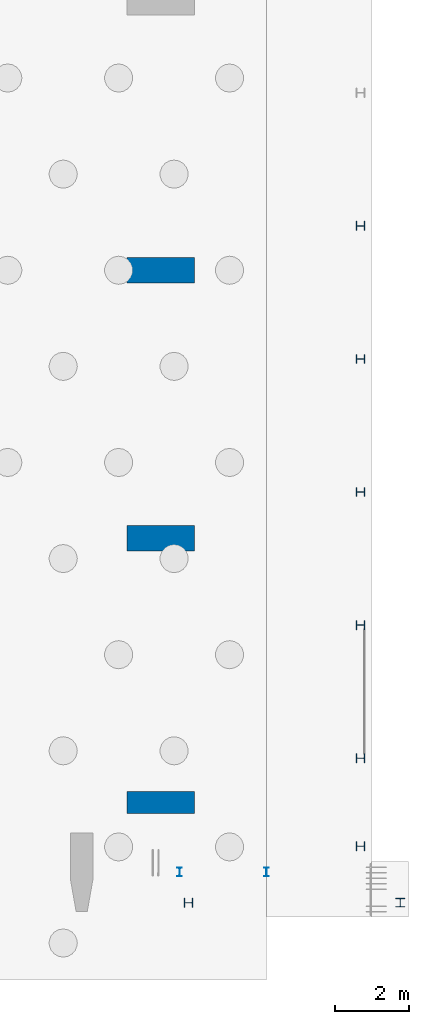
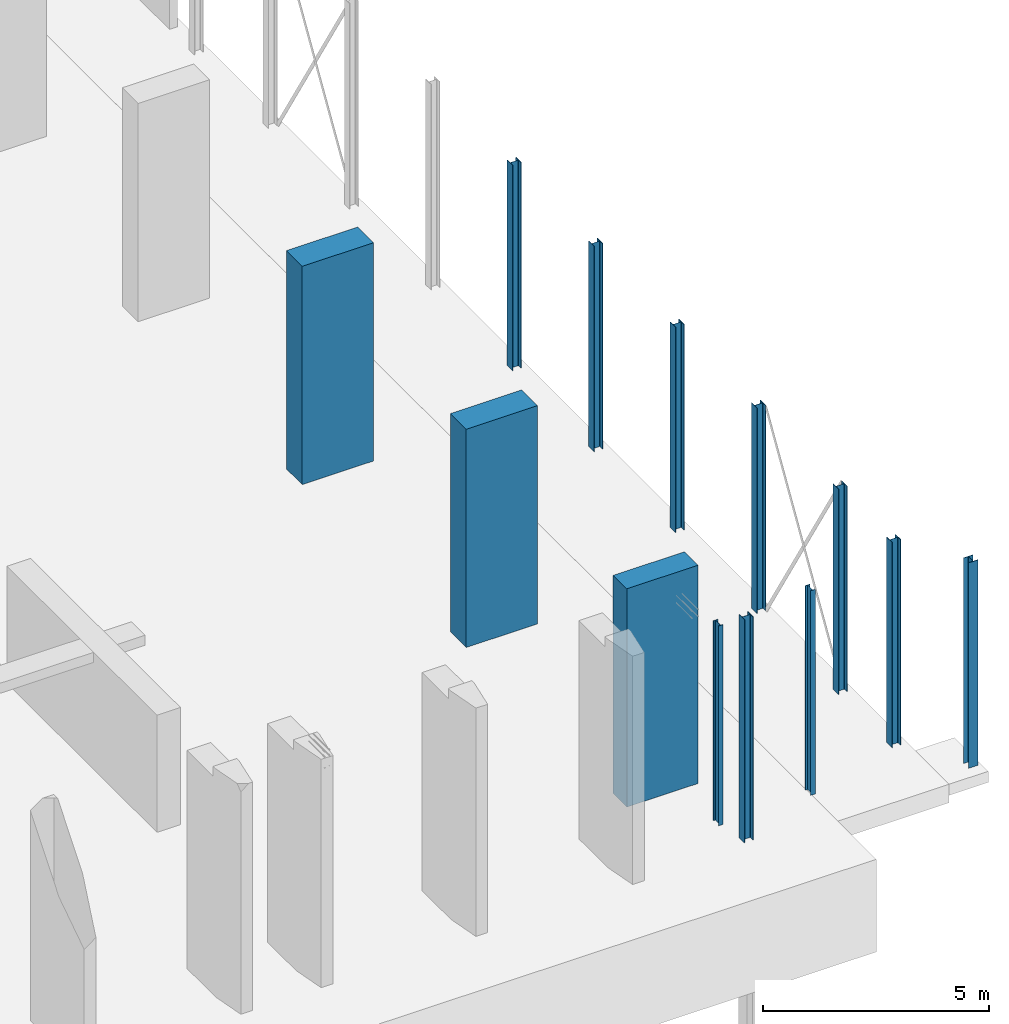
# One storey, part 12 of 26: 13 columns.
"""IFC2X3 building model written with IfcOpenShell, lengths in millimetres."""

import ifcopenshell
import ifcopenshell.guid

model = None  # the IFC model being written
_history = None  # IfcOwnerHistory: only IFC2X3 demands one
_inside = {}  # id of a spatial element -> (the spatial element, [elements in it])
_under = {}  # id of a project, library or spatial element -> (it, [spatial elements below it])
_declared = {}  # id of a project -> (the project, [libraries it declares])
_typed = {}  # id of a type object -> (the type object, [elements of that type])
_made_of = {}  # id of a material, layer set ... -> (it, [elements and type objects made of it])


def new_model(schema):
    """Start an empty IFC model of exactly this schema.

    Asked for "IFC4X3", IfcOpenShell would pick the latest addendum, in which some entities
    have other attributes; the version numbers below select the first issue.
    IFC2X3 requires an IfcOwnerHistory on every rooted entity: one is made here for all.
    """
    global model, _history
    if schema == "IFC4X3":
        model = ifcopenshell.file(schema_version=(4, 3, 0, 0))
    else:
        model = ifcopenshell.file(schema=schema)
    _inside.clear()
    _under.clear()
    _declared.clear()
    _typed.clear()
    _made_of.clear()
    _history = None
    if model.schema == "IFC2X3":
        org = make("IfcOrganization", Name="unknown")
        user = make(
            "IfcPersonAndOrganization",
            ThePerson=make("IfcPerson", FamilyName="unknown"),
            TheOrganization=org,
        )
        app = make(
            "IfcApplication",
            ApplicationDeveloper=org,
            Version="unknown",
            ApplicationFullName="unknown",
            ApplicationIdentifier="unknown",
        )
        _history = make(
            "IfcOwnerHistory",
            OwningUser=user,
            OwningApplication=app,
            ChangeAction="ADDED",
            CreationDate=0,
        )
    return model


def make(cls, **values):
    """One entity of the class cls with the attributes given. An attribute that is None is left unset."""
    return model.create_entity(
        cls, **{name: value for name, value in values.items() if value is not None}
    )


def entity(cls, *values):
    """Any entity or typed value of the class cls, its attributes in the order of the schema. None: left unset."""
    e = model.create_entity(cls)
    for i, value in enumerate(values):
        if value is not None:
            e[i] = value
    return e


def rooted(cls, **values):
    """An entity with a GlobalId (a new one), such as an element, a storey or a relation."""
    return make(cls, GlobalId=ifcopenshell.guid.new(), OwnerHistory=_history, **values)


def si_unit(unit_type, name, prefix=None):
    """IfcSIUnit, for example si_unit("LENGTHUNIT", "METRE", prefix="MILLI")."""
    return make("IfcSIUnit", UnitType=unit_type, Prefix=prefix, Name=name)


def converted_unit(unit_type, name, factor, base, dimensions=None, offset=None):
    """IfcConversionBasedUnit, such as the inch: factor (a typed value) times the base unit."""
    return make(
        "IfcConversionBasedUnit"
        if offset is None
        else "IfcConversionBasedUnitWithOffset",
        ConversionOffset=offset,
        Dimensions=None
        if dimensions is None
        else entity("IfcDimensionalExponents", *dimensions),
        UnitType=unit_type,
        Name=name,
        ConversionFactor=make(
            "IfcMeasureWithUnit", ValueComponent=factor, UnitComponent=base
        ),
    )


def derived_unit(unit_type, elements):
    """IfcDerivedUnit: a product of units, each with its exponent."""
    return make(
        "IfcDerivedUnit",
        Elements=[
            make("IfcDerivedUnitElement", Unit=unit, Exponent=power)
            for unit, power in elements
        ],
        UnitType=unit_type,
    )


def assignment(units):
    """IfcUnitAssignment: the units of a project."""
    return None if units is None else make("IfcUnitAssignment", Units=units)


def point(xyz):
    """IfcCartesianPoint."""
    return None if xyz is None else make("IfcCartesianPoint", Coordinates=xyz)


def direction(xyz):
    """IfcDirection."""
    return None if xyz is None else make("IfcDirection", DirectionRatios=xyz)


def frame(location, z_axis=None, x_axis=None):
    """IfcAxis2Placement3D, a coordinate frame: its origin and axes. An axis left out is left unset."""
    return make(
        "IfcAxis2Placement3D",
        Location=point(location),
        Axis=direction(z_axis),
        RefDirection=direction(x_axis),
    )


def frame_2d(location, x_axis=None):
    """IfcAxis2Placement2D, a coordinate frame in the plane: its origin and x axis."""
    return make(
        "IfcAxis2Placement2D", Location=point(location), RefDirection=direction(x_axis)
    )


def origin():
    """The frame at (0, 0, 0) with its axes left unset."""
    return frame((0.0, 0.0, 0.0))


def origin_2d_with_axis():
    """The frame at (0, 0) in the plane with the x axis (1, 0) written out."""
    return frame_2d((0.0, 0.0), x_axis=(1.0, 0.0))


def place(relative_to, where):
    """IfcLocalPlacement: puts the frame where relative to a parent placement (None: the world)."""
    return make(
        "IfcLocalPlacement", PlacementRelTo=relative_to, RelativePlacement=where
    )


def context(
    kind, dimensions, precision=None, world=None, true_north=None, identifier=None
):
    """IfcGeometricRepresentationContext, for example the 3D "Model" context."""
    return make(
        "IfcGeometricRepresentationContext",
        ContextIdentifier=identifier,
        ContextType=kind,
        CoordinateSpaceDimension=dimensions,
        Precision=precision,
        WorldCoordinateSystem=world,
        TrueNorth=true_north,
    )


def subcontext(parent, identifier, kind, view, scale=None):
    """IfcGeometricRepresentationSubContext, for example "Body" below "Model"."""
    return make(
        "IfcGeometricRepresentationSubContext",
        ContextIdentifier=identifier,
        ContextType=kind,
        ParentContext=parent,
        TargetScale=scale,
        TargetView=view,
    )


def project(units=None, contexts=None):
    """IfcProject with its units and contexts."""
    return rooted(
        "IfcProject",
        Name="project",
        RepresentationContexts=contexts,
        UnitsInContext=assignment(units),
    )


def spatial(cls, under=None, at=None, **own):
    """A site, building, storey or space (cls), placed at a placement, below another one or the project."""
    s = rooted(cls, ObjectPlacement=at, **own)
    if under is not None:
        _under.setdefault(under.id(), (under, []))[1].append(s)
    return s


def polyline(points):
    """IfcPolyline through the points."""
    return make("IfcPolyline", Points=[point(p) for p in points])


def circle_curve(where, radius):
    """IfcCircle in the frame where."""
    return make("IfcCircle", Position=where, Radius=radius)


def parameter(value):
    """IfcParameterValue: where a trimmed curve begins or ends, as a parameter of its basis curve."""
    return model.create_entity("IfcParameterValue", value)


def trimmed(basis, trim1, trim2, sense, master):
    """IfcTrimmedCurve: the piece of a basis curve between two trims."""
    return make(
        "IfcTrimmedCurve",
        BasisCurve=basis,
        Trim1=trim1,
        Trim2=trim2,
        SenseAgreement=sense,
        MasterRepresentation=master,
    )


def segment(curve, same_sense, transition):
    """IfcCompositeCurveSegment."""
    return make(
        "IfcCompositeCurveSegment",
        Transition=transition,
        SameSense=same_sense,
        ParentCurve=curve,
    )


def composite_curve(segments, self_intersect=None):
    """IfcCompositeCurve: segments joined end to end."""
    return make("IfcCompositeCurve", Segments=segments, SelfIntersect=self_intersect)


def profile(cls, at=None, kind="AREA", **sizes):
    """A parametric profile (cls). Its sizes go by their IFC names, for example OverallWidth=200.0."""
    return make(cls, ProfileType=kind, Position=at, **sizes)


def rectangle(**sizes):
    """IfcRectangleProfileDef."""
    return profile("IfcRectangleProfileDef", **sizes)


def outline(outer, holes=None, kind="AREA"):
    """IfcArbitraryClosedProfileDef: a profile drawn as a closed curve; with holes, ...WithVoids."""
    if holes is None:
        return make("IfcArbitraryClosedProfileDef", ProfileType=kind, OuterCurve=outer)
    return make(
        "IfcArbitraryProfileDefWithVoids",
        ProfileType=kind,
        OuterCurve=outer,
        InnerCurves=holes,
    )


def extrude(swept, where, along, depth):
    """IfcExtrudedAreaSolid: the profile swept, set in the frame where, extruded along a direction by depth."""
    return make(
        "IfcExtrudedAreaSolid",
        SweptArea=swept,
        Position=where,
        ExtrudedDirection=direction(along),
        Depth=depth,
    )


def shape(context_of_items, identifier, shape_type, items):
    """IfcShapeRepresentation: the items that make up one representation, for example the "Body"."""
    return make(
        "IfcShapeRepresentation",
        ContextOfItems=context_of_items,
        RepresentationIdentifier=identifier,
        RepresentationType=shape_type,
        Items=items,
    )


def source(mapping_origin, context_of_items, identifier, shape_type, items):
    """IfcRepresentationMap: a shape defined once, which mapped items show again and again."""
    return make(
        "IfcRepresentationMap",
        MappingOrigin=mapping_origin,
        MappedRepresentation=shape(context_of_items, identifier, shape_type, items),
    )


def transform(
    local_origin,
    x_axis=None,
    y_axis=None,
    z_axis=None,
    scale=None,
    scale2=None,
    scale3=None,
    uniform=True,
):
    """IfcCartesianTransformationOperator3D, or its non-uniform kind. x_axis, y_axis, z_axis: its Axis1, 2, 3."""
    if uniform:
        return make(
            "IfcCartesianTransformationOperator3D",
            Axis1=direction(x_axis),
            Axis2=direction(y_axis),
            LocalOrigin=point(local_origin),
            Scale=scale,
            Axis3=direction(z_axis),
        )
    return make(
        "IfcCartesianTransformationOperator3DnonUniform",
        Axis1=direction(x_axis),
        Axis2=direction(y_axis),
        LocalOrigin=point(local_origin),
        Scale=scale,
        Axis3=direction(z_axis),
        Scale2=scale2,
        Scale3=scale3,
    )


def mapped(mapping_source, mapping_target):
    """IfcMappedItem: shows the shape of a source again, moved by a transform."""
    return make(
        "IfcMappedItem", MappingSource=mapping_source, MappingTarget=mapping_target
    )


def material(Name=None, Category=None):
    """IfcMaterial."""
    return make("IfcMaterial", Name=Name, Category=Category)


def made_of(thing, what):
    """Note that an element or type object is made of a material, layer set ...; save() writes the relation."""
    if what is not None:
        _made_of.setdefault(what.id(), (what, []))[1].append(thing)
    return thing


def type_object(cls, material=None, **own):
    """A type object (cls), such as IfcWallType, which elements share."""
    return made_of(rooted(cls, **own), material)


def type_shapes(of_type, sources):
    """Give a type object the sources (RepresentationMaps) that its elements show as mapped items."""
    of_type.RepresentationMaps = sources


def element(
    cls,
    number,
    at=None,
    inside=None,
    cuts=None,
    type_object=None,
    material=None,
    context=None,
    identifier="Body",
    shape_type=None,
    held_by="IfcProductDefinitionShape",
    body=None,
    shapes=None,
    **own,
):
    """One element of the class cls, such as IfcWall. Its Tag is "e" and its number.

    at: its placement. inside: the storey or other place that contains it. cuts: it is an
    opening in that element (IfcRelVoidsElement). A single representation is given by context,
    identifier, shape_type and body (its items); several are given by shapes. held_by: the class
    of the entity that holds the representations. save() writes the other relations.
    """
    e = rooted(cls, Tag="e%d" % number, ObjectPlacement=at, **own)
    if body is not None:
        shapes = [shape(context, identifier, shape_type, body)]
    if shapes is not None:
        e.Representation = make(held_by, Representations=shapes)
    if inside is not None:
        _inside.setdefault(inside.id(), (inside, []))[1].append(e)
    if cuts is not None:
        rooted(
            "IfcRelVoidsElement", RelatingBuildingElement=cuts, RelatedOpeningElement=e
        )
    if type_object is not None:
        _typed.setdefault(type_object.id(), (type_object, []))[1].append(e)
    return made_of(e, material)


def aggregate(whole, parts):
    """IfcRelAggregates: a whole, such as a stair, and the parts it consists of."""
    return rooted("IfcRelAggregates", RelatingObject=whole, RelatedObjects=parts)


def save(model, path):
    """Write the relations noted so far, then the file.

    IfcRelAggregates (storeys below a building ...), IfcRelContainedInSpatialStructure (elements
    in a storey), IfcRelDefinesByType, IfcRelAssociatesMaterial and IfcRelDeclares: one each for
    every whole, place, type object, material and project.
    """
    for whole, parts in _under.values():
        aggregate(whole, parts)
    for where, things in _inside.values():
        rooted(
            "IfcRelContainedInSpatialStructure",
            RelatedElements=things,
            RelatingStructure=where,
        )
    for kind, things in _typed.values():
        rooted("IfcRelDefinesByType", RelatedObjects=things, RelatingType=kind)
    for what, things in _made_of.values():
        rooted("IfcRelAssociatesMaterial", RelatedObjects=things, RelatingMaterial=what)
    for by, libraries in _declared.values():
        rooted("IfcRelDeclares", RelatingContext=by, RelatedDefinitions=libraries)
    model.write(path)


model = new_model("IFC2X3")

# Units and contexts
model_context = context("Model", 3, precision=0.01, world=origin(), true_north=direction((6.12303176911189e-17, 1.0)))
body_context = subcontext(model_context, "Body", "Model", "MODEL_VIEW")
ifc_project = project(units=[si_unit("LENGTHUNIT", "METRE", prefix="MILLI"), si_unit("AREAUNIT", "SQUARE_METRE"), si_unit("VOLUMEUNIT", "CUBIC_METRE"), converted_unit("PLANEANGLEUNIT", "DEGREE", entity("IfcRatioMeasure", 0.0174532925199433), si_unit("PLANEANGLEUNIT", "RADIAN"), dimensions=[0, 0, 0, 0, 0, 0, 0]), si_unit("MASSUNIT", "GRAM", prefix="KILO"), derived_unit("MASSDENSITYUNIT", [(si_unit("MASSUNIT", "GRAM", prefix="KILO"), 1), (si_unit("LENGTHUNIT", "METRE"), -3)]), si_unit("TIMEUNIT", "SECOND"), si_unit("FREQUENCYUNIT", "HERTZ"), si_unit("THERMODYNAMICTEMPERATUREUNIT", "DEGREE_CELSIUS"), derived_unit("THERMALTRANSMITTANCEUNIT", [(si_unit("MASSUNIT", "GRAM", prefix="KILO"), 1), (si_unit("THERMODYNAMICTEMPERATUREUNIT", "KELVIN"), -1), (si_unit("TIMEUNIT", "SECOND"), -3)]), derived_unit("VOLUMETRICFLOWRATEUNIT", [(si_unit("LENGTHUNIT", "METRE"), 3), (si_unit("TIMEUNIT", "SECOND"), -1)]), si_unit("ELECTRICCURRENTUNIT", "AMPERE"), si_unit("ELECTRICVOLTAGEUNIT", "VOLT"), si_unit("POWERUNIT", "WATT"), si_unit("FORCEUNIT", "NEWTON", prefix="KILO"), si_unit("ILLUMINANCEUNIT", "LUX"), si_unit("LUMINOUSFLUXUNIT", "LUMEN"), si_unit("LUMINOUSINTENSITYUNIT", "CANDELA"), derived_unit("USERDEFINED", [(si_unit("MASSUNIT", "GRAM", prefix="KILO"), -1), (si_unit("LENGTHUNIT", "METRE"), -2), (si_unit("TIMEUNIT", "SECOND"), 3), (si_unit("LUMINOUSFLUXUNIT", "LUMEN"), 1)]), derived_unit("LINEARVELOCITYUNIT", [(si_unit("LENGTHUNIT", "METRE"), 1), (si_unit("TIMEUNIT", "SECOND"), -1)]), si_unit("PRESSUREUNIT", "PASCAL"), derived_unit("USERDEFINED", [(si_unit("LENGTHUNIT", "METRE"), -2), (si_unit("MASSUNIT", "GRAM", prefix="KILO"), 1), (si_unit("TIMEUNIT", "SECOND"), -2)])], contexts=[model_context])

# Site, building, storey
site_placement = place(None, origin())
site = spatial("IfcSite", under=ifc_project, at=site_placement, Name="Default", CompositionType="ELEMENT")
building_placement = place(site_placement, origin())
building = spatial("IfcBuilding", under=site, at=building_placement, Name="niet gebruiken", CompositionType="ELEMENT")
storey_placement = place(building_placement, origin())
storey = spatial("IfcBuildingStorey", under=building, at=storey_placement, Name="00 begane grond", CompositionType="ELEMENT", Elevation=0.0)

# Columns
ifc_material_1 = material(Name="NLRS_f2_beton ihwg")
column_type_1 = type_object("IfcColumnType", Name="600x1820", PredefinedType="COLUMN", material=ifc_material_1)
shared_shape_1 = source(origin(), body_context, "Body", "SweptSolid", [
    extrude(rectangle(XDim=600.0, YDim=1820.0, at=origin_2d_with_axis()), frame((157890.0, 3100.0, -250.0), z_axis=(0.0, 0.0, 1.0), x_axis=(0.0, -1.0, 0.0)), (0.0, 0.0, 1.0), 5890.0),
])
type_shapes(column_type_1, [shared_shape_1])
column_1_placement = place(storey_placement, origin())
element("IfcColumn", 1, at=column_1_placement, inside=storey, type_object=column_type_1, material=ifc_material_1, Name="NLRS_28.11_SCO_TLB_beton kolom ihwg_gen:600x1820", ObjectType="600x1820", context=body_context, shape_type="MappedRepresentation", body=[
    mapped(shared_shape_1, transform((0.0, 0.0, 0.0), scale=1.0)),
])
column_type_2 = type_object("IfcColumnType", Name="700x1820", PredefinedType="COLUMN", material=ifc_material_1)
shared_shape_2 = source(origin(), body_context, "Body", "SweptSolid", [
    extrude(rectangle(XDim=699.999999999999, YDim=1820.0, at=origin_2d_with_axis()), frame((157890.0, 10250.0, -250.0), z_axis=(0.0, 0.0, 1.0), x_axis=(0.0, -1.0, 0.0)), (0.0, 0.0, 1.0), 5890.0),
])
type_shapes(column_type_2, [shared_shape_2])
column_2_placement = place(storey_placement, origin())
element("IfcColumn", 2, at=column_2_placement, inside=storey, type_object=column_type_2, material=ifc_material_1, Name="NLRS_28.11_SCO_TLB_beton kolom ihwg_gen:700x1820", ObjectType="700x1820", context=body_context, shape_type="MappedRepresentation", body=[
    mapped(shared_shape_2, transform((0.0, 0.0, 0.0), scale=1.0)),
])
column_type_3 = type_object("IfcColumnType", Name="700x1820", PredefinedType="COLUMN", material=ifc_material_1)
shared_shape_3 = source(origin(), body_context, "Body", "SweptSolid", [
    extrude(rectangle(XDim=699.999999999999, YDim=1820.0, at=frame_2d((2.1600499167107e-12, 0.0), x_axis=(1.0, 0.0))), frame((157890.0, 17500.0, -250.0), z_axis=(0.0, 0.0, 1.0), x_axis=(0.0, -1.0, 0.0)), (0.0, 0.0, 1.0), 5890.0),
])
type_shapes(column_type_3, [shared_shape_3])
column_3_placement = place(storey_placement, origin())
element("IfcColumn", 3, at=column_3_placement, inside=storey, type_object=column_type_3, material=ifc_material_1, Name="NLRS_28.11_SCO_TLB_beton kolom ihwg_gen:700x1820", ObjectType="700x1820", context=body_context, shape_type="MappedRepresentation", body=[
    mapped(shared_shape_3, transform((0.0, 0.0, 0.0), scale=1.0)),
])
ifc_material_2 = material(Name="NLRS_h2_staal")
column_type_4 = type_object("IfcColumnType", Name="kolom HEA 240", PredefinedType="COLUMN", material=ifc_material_2)
shared_shape_4 = source(origin(), body_context, "Body", "SweptSolid", [
    extrude(outline(composite_curve([segment(polyline([(103.0, -120.0), (115.0, -120.0)]), True, "CONTINUOUS"), segment(polyline([(115.0, -120.0), (115.0, 120.0)]), True, "CONTINUOUS"), segment(polyline([(115.0, 120.0), (103.0, 120.0)]), True, "CONTINUOUS"), segment(polyline([(103.0, 120.0), (103.0, 24.7499999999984)]), True, "CONTINUOUS"), segment(trimmed(circle_curve(frame_2d((82.0, 24.7499999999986), x_axis=(1.0, 0.0)), 21.0), [parameter(270.0)], [parameter(0.0)], True, "PARAMETER"), False, "CONTINUOUS"), segment(polyline([(82.0, 3.74999999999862), (-82.0, 3.74999999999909)]), True, "CONTINUOUS"), segment(trimmed(circle_curve(frame_2d((-82.0, 24.7499999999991), x_axis=(0.0, -1.0)), 21.0), [parameter(270.0)], [parameter(0.0)], True, "PARAMETER"), False, "CONTINUOUS"), segment(polyline([(-103.0, 24.7499999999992), (-103.0, 120.0)]), True, "CONTINUOUS"), segment(polyline([(-103.0, 120.0), (-115.0, 120.0)]), True, "CONTINUOUS"), segment(polyline([(-115.0, 120.0), (-115.0, -120.0)]), True, "CONTINUOUS"), segment(polyline([(-115.0, -120.0), (-103.0, -120.0)]), True, "CONTINUOUS"), segment(polyline([(-103.0, -120.0), (-103.0, -24.7500000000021)]), True, "CONTINUOUS"), segment(trimmed(circle_curve(frame_2d((-82.0, -24.7500000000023), x_axis=(-1.0, 0.0)), 21.0), [parameter(270.0)], [parameter(0.0)], True, "PARAMETER"), False, "CONTINUOUS"), segment(polyline([(-82.0, -3.75000000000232), (82.0, -3.75000000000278)]), True, "CONTINUOUS"), segment(trimmed(circle_curve(frame_2d((82.0, -24.7500000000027), x_axis=(0.0, 1.0)), 21.0), [parameter(270.0)], [parameter(0.0)], True, "PARAMETER"), False, "CONTINUOUS"), segment(polyline([(103.0, -24.7500000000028), (103.0, -120.0)]), True, "CONTINUOUS")], self_intersect=False)), frame((0.0, 0.0, -220.0), z_axis=(0.0, 0.0, 1.0), x_axis=(0.0, -1.0, 0.0)), (0.0, 0.0, 1.0), 5545.0),
])
type_shapes(column_type_4, [shared_shape_4])
for number, where, z_axis, x_axis, name in (
    (4, (163290.0, 18700.0, 0.0), (0.0, 0.0, 1.0), (0.0, 1.0, 0.0), "NLRS_28.11_SCO_TLB_stalen kolom HEA_gen:kolom HEA 240"),
    (5, (163290.0, 15100.0, 0.0), (0.0, 0.0, 1.0), (0.0, 1.0, 0.0), "NLRS_28.11_SCO_TLB_stalen kolom HEA_gen:kolom HEA 240"),
    (6, (163290.0, 11500.0, 0.0), (0.0, 0.0, 1.0), (0.0, 1.0, 0.0), "NLRS_28.11_SCO_TLB_stalen kolom HEA_gen:kolom HEA 240"),
    (7, (163290.0, 7900.0, 0.0), (0.0, 0.0, 1.0), (0.0, 1.0, 0.0), "NLRS_28.11_SCO_TLB_stalen kolom HEA_gen:kolom HEA 240"),
    (8, (163290.0, 4300.0, 0.0), (0.0, 0.0, 1.0), (0.0, 1.0, 0.0), "NLRS_28.11_SCO_TLB_stalen kolom HEA_gen:kolom HEA 240"),
    (9, (163290.0, 1920.0, 0.0), (0.0, 0.0, 1.0), (0.0, 1.0, 0.0), "NLRS_28.11_SCO_TLB_stalen kolom HEA_gen:kolom HEA 240"),
    (10, (164366.25, 390.0, -1.1173512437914e-09), (0.0, 0.0, 1.0), (-1.0, 0.0, 0.0), "NLRS_28.11_SCO_TLB_stalen kolom HEA_gen:kolom HEA 240"),
):
    element("IfcColumn", number, at=place(storey_placement, frame(where, z_axis=z_axis, x_axis=x_axis)), inside=storey, type_object=column_type_4, material=ifc_material_2, Name=name, ObjectType="kolom HEA 240", context=body_context, shape_type="MappedRepresentation", body=[
        mapped(shared_shape_4, transform((0.0, 0.0, 0.0), scale=1.0)),
    ])
column_type_5 = type_object("IfcColumnType", Name="kolom HEA 240", PredefinedType="COLUMN", material=ifc_material_2)
shared_shape_5 = source(origin(), body_context, "Body", "SweptSolid", [
    extrude(outline(composite_curve([segment(polyline([(103.0, -120.0), (115.0, -120.0)]), True, "CONTINUOUS"), segment(polyline([(115.0, -120.0), (115.0, 120.0)]), True, "CONTINUOUS"), segment(polyline([(115.0, 120.0), (103.0, 120.0)]), True, "CONTINUOUS"), segment(polyline([(103.0, 120.0), (103.0, 24.7499999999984)]), True, "CONTINUOUS"), segment(trimmed(circle_curve(frame_2d((82.0, 24.7499999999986), x_axis=(1.0, 0.0)), 21.0), [parameter(270.0)], [parameter(0.0)], True, "PARAMETER"), False, "CONTINUOUS"), segment(polyline([(82.0, 3.74999999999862), (-82.0, 3.74999999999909)]), True, "CONTINUOUS"), segment(trimmed(circle_curve(frame_2d((-82.0, 24.7499999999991), x_axis=(0.0, -1.0)), 21.0), [parameter(270.0)], [parameter(0.0)], True, "PARAMETER"), False, "CONTINUOUS"), segment(polyline([(-103.0, 24.7499999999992), (-103.0, 120.0)]), True, "CONTINUOUS"), segment(polyline([(-103.0, 120.0), (-115.0, 120.0)]), True, "CONTINUOUS"), segment(polyline([(-115.0, 120.0), (-115.0, -120.0)]), True, "CONTINUOUS"), segment(polyline([(-115.0, -120.0), (-103.0, -120.0)]), True, "CONTINUOUS"), segment(polyline([(-103.0, -120.0), (-103.0, -24.7500000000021)]), True, "CONTINUOUS"), segment(trimmed(circle_curve(frame_2d((-82.0, -24.7500000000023), x_axis=(-1.0, 0.0)), 21.0), [parameter(270.0)], [parameter(0.0)], True, "PARAMETER"), False, "CONTINUOUS"), segment(polyline([(-82.0, -3.75000000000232), (82.0, -3.75000000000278)]), True, "CONTINUOUS"), segment(trimmed(circle_curve(frame_2d((82.0, -24.7500000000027), x_axis=(0.0, 1.0)), 21.0), [parameter(270.0)], [parameter(0.0)], True, "PARAMETER"), False, "CONTINUOUS"), segment(polyline([(103.0, -24.7500000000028), (103.0, -120.0)]), True, "CONTINUOUS")], self_intersect=False)), frame((0.0, 0.0, -220.0), z_axis=(0.0, 0.0, 1.0), x_axis=(0.0, -1.0, 0.0)), (0.0, 0.0, 1.0), 6020.0),
])
type_shapes(column_type_5, [shared_shape_5])
column_4_placement = place(storey_placement, frame((158635.0, 390.0, 0.0), z_axis=(0.0, 0.0, 1.0), x_axis=(0.0, 1.0, 0.0)))
element("IfcColumn", 11, at=column_4_placement, inside=storey, type_object=column_type_5, material=ifc_material_2, Name="NLRS_28.11_SCO_TLB_stalen kolom HEA_gen:kolom HEA 240", ObjectType="kolom HEA 240", context=body_context, shape_type="MappedRepresentation", body=[
    mapped(shared_shape_5, transform((0.0, 0.0, 0.0), scale=1.0)),
])
column_type_6 = type_object("IfcColumnType", Name="kolom IPE 240", PredefinedType="COLUMN", material=ifc_material_2)
shared_shape_6 = source(origin(), body_context, "Body", "SweptSolid", [
    extrude(outline(composite_curve([segment(polyline([(110.199999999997, -60.0), (120.0, -60.0)]), True, "CONTINUOUS"), segment(polyline([(120.0, -60.0), (120.0, 60.0)]), True, "CONTINUOUS"), segment(polyline([(120.0, 60.0), (110.199999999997, 60.0)]), True, "CONTINUOUS"), segment(polyline([(110.199999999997, 60.0), (110.199999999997, 18.0999999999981)]), True, "CONTINUOUS"), segment(trimmed(circle_curve(frame_2d((95.1999999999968, 18.0999999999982), x_axis=(1.0, 0.0)), 15.0), [parameter(270.0)], [parameter(0.0)], True, "PARAMETER"), False, "CONTINUOUS"), segment(polyline([(95.1999999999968, 3.09999999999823), (-95.1999999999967, 3.09999999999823)]), True, "CONTINUOUS"), segment(trimmed(circle_curve(frame_2d((-95.1999999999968, 18.0999999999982), x_axis=(0.0, -1.0)), 15.0), [parameter(270.0)], [parameter(0.0)], True, "PARAMETER"), False, "CONTINUOUS"), segment(polyline([(-110.199999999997, 18.0999999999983), (-110.199999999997, 60.0)]), True, "CONTINUOUS"), segment(polyline([(-110.199999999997, 60.0), (-120.0, 60.0)]), True, "CONTINUOUS"), segment(polyline([(-120.0, 60.0), (-120.0, -60.0)]), True, "CONTINUOUS"), segment(polyline([(-120.0, -60.0), (-110.199999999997, -60.0)]), True, "CONTINUOUS"), segment(polyline([(-110.199999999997, -60.0), (-110.199999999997, -18.1000000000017)]), True, "CONTINUOUS"), segment(trimmed(circle_curve(frame_2d((-95.1999999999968, -18.1000000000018), x_axis=(-1.0, 0.0)), 15.0), [parameter(270.0)], [parameter(0.0)], True, "PARAMETER"), False, "CONTINUOUS"), segment(polyline([(-95.1999999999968, -3.10000000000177), (95.1999999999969, -3.10000000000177)]), True, "CONTINUOUS"), segment(trimmed(circle_curve(frame_2d((95.1999999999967, -18.1000000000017), x_axis=(0.0, 1.0)), 15.0), [parameter(270.0)], [parameter(0.0)], True, "PARAMETER"), False, "CONTINUOUS"), segment(polyline([(110.199999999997, -18.1000000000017), (110.199999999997, -60.0)]), True, "CONTINUOUS")], self_intersect=False)), frame((0.0, 0.0, -205.0), z_axis=(0.0, 0.0, 1.0), x_axis=(0.0, -1.0, 0.0)), (0.0, 0.0, 1.0), 5395.0),
])
type_shapes(column_type_6, [shared_shape_6])
column_5_placement = place(storey_placement, frame((158400.0, 1221.0, -1.07679305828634e-09), z_axis=(0.0, 0.0, 1.0), x_axis=(-1.0, 0.0, 0.0)))
element("IfcColumn", 12, at=column_5_placement, inside=storey, type_object=column_type_6, material=ifc_material_2, Name="NLRS_28.11_SCO_TLB_stalen kolom IPE_gen:kolom IPE 240", ObjectType="kolom IPE 240", context=body_context, shape_type="MappedRepresentation", body=[
    mapped(shared_shape_6, transform((0.0, 0.0, 0.0), scale=1.0)),
])
column_type_7 = type_object("IfcColumnType", Name="kolom IPE 240", PredefinedType="COLUMN", material=ifc_material_2)
shared_shape_7 = source(origin(), body_context, "Body", "SweptSolid", [
    extrude(outline(composite_curve([segment(polyline([(110.199999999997, -60.0), (120.0, -60.0)]), True, "CONTINUOUS"), segment(polyline([(120.0, -60.0), (120.0, 60.0)]), True, "CONTINUOUS"), segment(polyline([(120.0, 60.0), (110.199999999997, 60.0)]), True, "CONTINUOUS"), segment(polyline([(110.199999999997, 60.0), (110.199999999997, 18.0999999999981)]), True, "CONTINUOUS"), segment(trimmed(circle_curve(frame_2d((95.1999999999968, 18.0999999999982), x_axis=(1.0, 0.0)), 15.0), [parameter(270.0)], [parameter(0.0)], True, "PARAMETER"), False, "CONTINUOUS"), segment(polyline([(95.1999999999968, 3.09999999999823), (-95.1999999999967, 3.09999999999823)]), True, "CONTINUOUS"), segment(trimmed(circle_curve(frame_2d((-95.1999999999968, 18.0999999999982), x_axis=(0.0, -1.0)), 15.0), [parameter(270.0)], [parameter(0.0)], True, "PARAMETER"), False, "CONTINUOUS"), segment(polyline([(-110.199999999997, 18.0999999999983), (-110.199999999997, 60.0)]), True, "CONTINUOUS"), segment(polyline([(-110.199999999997, 60.0), (-120.0, 60.0)]), True, "CONTINUOUS"), segment(polyline([(-120.0, 60.0), (-120.0, -60.0)]), True, "CONTINUOUS"), segment(polyline([(-120.0, -60.0), (-110.199999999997, -60.0)]), True, "CONTINUOUS"), segment(polyline([(-110.199999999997, -60.0), (-110.199999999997, -18.1000000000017)]), True, "CONTINUOUS"), segment(trimmed(circle_curve(frame_2d((-95.1999999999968, -18.1000000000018), x_axis=(-1.0, 0.0)), 15.0), [parameter(270.0)], [parameter(0.0)], True, "PARAMETER"), False, "CONTINUOUS"), segment(polyline([(-95.1999999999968, -3.10000000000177), (95.1999999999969, -3.10000000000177)]), True, "CONTINUOUS"), segment(trimmed(circle_curve(frame_2d((95.1999999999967, -18.1000000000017), x_axis=(0.0, 1.0)), 15.0), [parameter(270.0)], [parameter(0.0)], True, "PARAMETER"), False, "CONTINUOUS"), segment(polyline([(110.199999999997, -18.1000000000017), (110.199999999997, -60.0)]), True, "CONTINUOUS")], self_intersect=False)), frame((0.0, 0.0, -205.0), z_axis=(0.0, 0.0, 1.0), x_axis=(0.0, -1.0, 0.0)), (0.0, 0.0, 1.0), 5520.0),
])
type_shapes(column_type_7, [shared_shape_7])
column_6_placement = place(storey_placement, frame((160750.0, 1221.0, -1.09276820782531e-09), z_axis=(0.0, 0.0, 1.0), x_axis=(-1.0, 0.0, 0.0)))
element("IfcColumn", 13, at=column_6_placement, inside=storey, type_object=column_type_7, material=ifc_material_2, Name="NLRS_28.11_SCO_TLB_stalen kolom IPE_gen:kolom IPE 240", ObjectType="kolom IPE 240", context=body_context, shape_type="MappedRepresentation", body=[
    mapped(shared_shape_7, transform((0.0, 0.0, 0.0), scale=1.0)),
])

save(model, "model.ifc")
